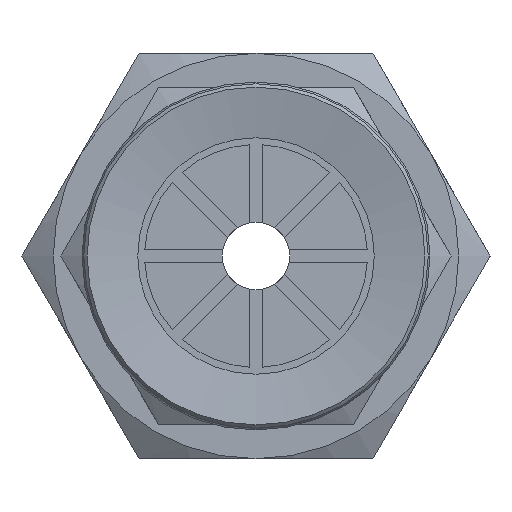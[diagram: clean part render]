
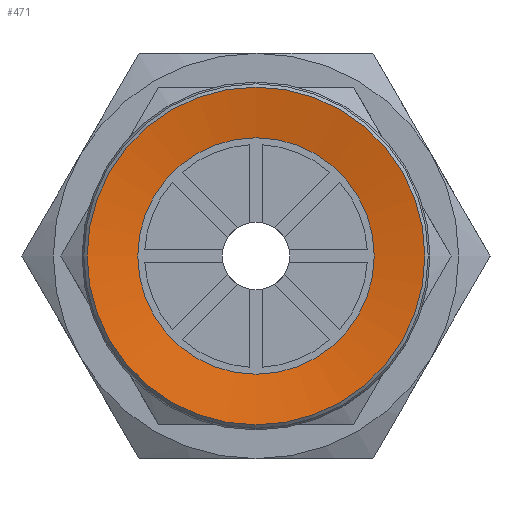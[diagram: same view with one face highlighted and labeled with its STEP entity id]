
A CAD part, front view. The second image highlights one B-rep face of the part: STEP entity #471.
In plain terms, the highlighted conical face has half-angle 80 degrees and reference radius 5 mm.
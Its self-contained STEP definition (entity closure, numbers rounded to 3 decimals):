
#471=ADVANCED_FACE('',(#703,#704),#705,.F.);
#703=FACE_BOUND('',#1022,.T.);
#704=FACE_OUTER_BOUND('',#1023,.T.);
#705=CONICAL_SURFACE('',#1024,5.0,1.396);
#1022=EDGE_LOOP('',(#1695));
#1023=EDGE_LOOP('',(#1696));
#1024=AXIS2_PLACEMENT_3D('',#1697,#1698,#1699);
#1695=ORIENTED_EDGE('',*,*,#2190,.T.);
#1696=ORIENTED_EDGE('',*,*,#2292,.F.);
#1697=CARTESIAN_POINT('',(0.0,0.,0.));
#1698=DIRECTION('',(0.0,0.,-1.0));
#1699=DIRECTION('',(0.0,1.0,0.));
#2190=EDGE_CURVE('',#2510,#2510,#2511,.T.);
#2292=EDGE_CURVE('',#2688,#2688,#2689,.T.);
#2510=VERTEX_POINT('',#3238);
#2511=CIRCLE('',#3239,3.5);
#2688=VERTEX_POINT('',#3474);
#2689=CIRCLE('',#3475,5.0);
#3238=CARTESIAN_POINT('',(0.0,-3.5,0.264));
#3239=AXIS2_PLACEMENT_3D('',#3822,#3823,#3824);
#3474=CARTESIAN_POINT('',(0.0,-5.0,0.));
#3475=AXIS2_PLACEMENT_3D('',#4012,#4013,#4014);
#3822=CARTESIAN_POINT('',(0.0,0.,0.264));
#3823=DIRECTION('',(0.0,0.,1.0));
#3824=DIRECTION('',(0.0,-1.0,0.));
#4012=CARTESIAN_POINT('',(0.0,0.,0.));
#4013=DIRECTION('',(0.0,0.,1.0));
#4014=DIRECTION('',(0.0,-1.0,0.));
